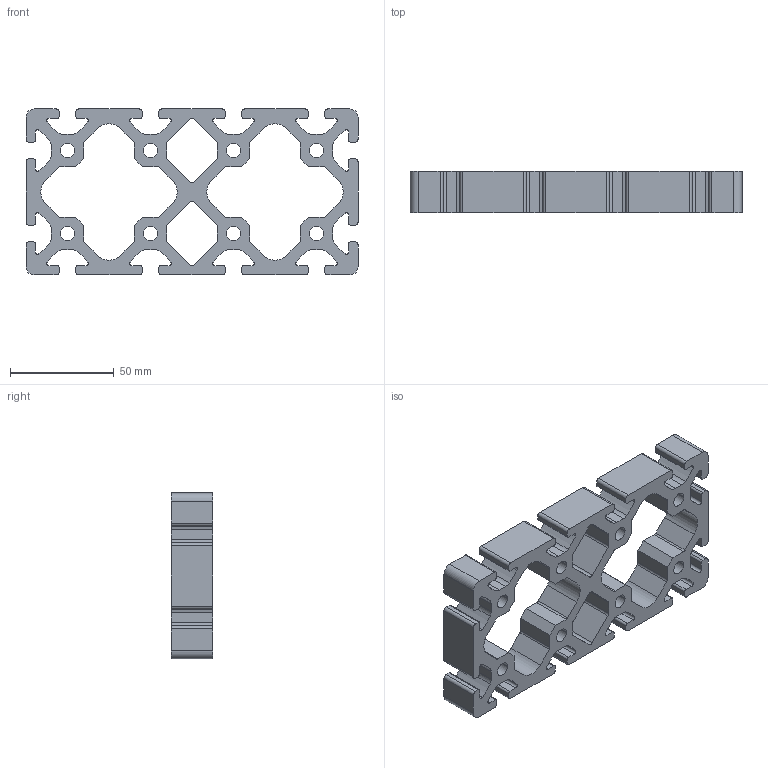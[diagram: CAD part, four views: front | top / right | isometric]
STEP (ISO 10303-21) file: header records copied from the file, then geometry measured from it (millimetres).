
FILE_DESCRIPTION(('STEP AP214'),'1');
FILE_NAME('cctmp_6B2AB439-CFB8-4245-8457-427EF8ABD59D_2023_04_28_14_47_25_0282_19864..stp','2023-04-28T12:47:25',('item Industrietechnik GmbH'),('CADClick - www.CADClick.com'),'Spatial InterOp 3D',' ','unknown authorization');
FILE_SCHEMA(('AUTOMOTIVE_DESIGN'));
Length unit declared in the file: millimetre
Products named in the file (2): item_0026526_Profile 8 160x80_L=20; item_0026526_Profile 8 160x80_L=20_1
Assembly tree (1 placements, depth 2):
  item_0026526_Profile 8 160x80_L=20
    item_0026526_Profile 8 160x80_L=20_1
Bounding box: 160 x 20 x 80 mm (x, y, z)
Volume: 100617.6 mm3; surface area: 43677.6 mm2
Topology: 1 solids, 1 shells, 306 faces, 912 edges, 608 vertices
Faces by surface type: cylinder 176, plane 130
Entity records: 12955 total; most frequent: DIRECTION 1880, CARTESIAN_POINT 1828, ORIENTED_EDGE 1824, EDGE_CURVE 912, AXIS2_PLACEMENT_3D 660, VERTEX_POINT 608, LINE 560, VECTOR 560
